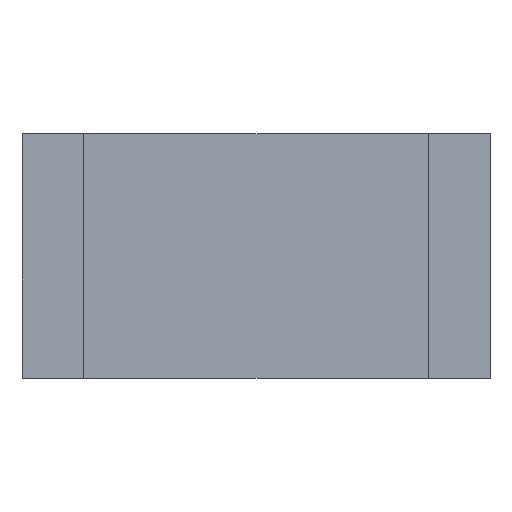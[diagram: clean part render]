
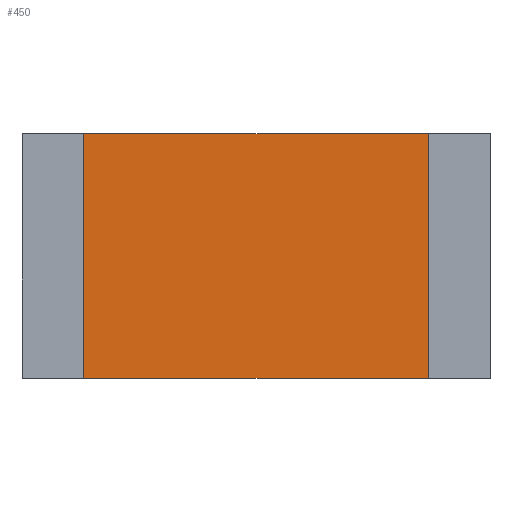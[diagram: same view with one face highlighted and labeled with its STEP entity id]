
A CAD part, top view. The second image highlights one B-rep face of the part: STEP entity #450.
In plain terms, the highlighted planar face has unit normal (0, 0, 1).
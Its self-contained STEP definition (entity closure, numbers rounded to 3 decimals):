
#32=FACE_OUTER_BOUND('',#58,.T.);
#58=EDGE_LOOP('',(#351,#352,#353,#354));
#95=LINE('',#679,#155);
#99=LINE('',#687,#159);
#104=LINE('',#697,#164);
#105=LINE('',#698,#165);
#155=VECTOR('',#559,10.);
#159=VECTOR('',#565,10.);
#164=VECTOR('',#574,10.);
#165=VECTOR('',#575,10.);
#207=VERTEX_POINT('',#677);
#208=VERTEX_POINT('',#678);
#211=VERTEX_POINT('',#686);
#214=VERTEX_POINT('',#696);
#255=EDGE_CURVE('',#207,#208,#95,.T.);
#259=EDGE_CURVE('',#211,#208,#99,.T.);
#264=EDGE_CURVE('',#214,#207,#104,.T.);
#265=EDGE_CURVE('',#214,#211,#105,.T.);
#351=ORIENTED_EDGE('',*,*,#264,.F.);
#352=ORIENTED_EDGE('',*,*,#265,.T.);
#353=ORIENTED_EDGE('',*,*,#259,.T.);
#354=ORIENTED_EDGE('',*,*,#255,.F.);
#424=PLANE('',#498);
#450=ADVANCED_FACE('',(#32),#424,.T.);
#498=AXIS2_PLACEMENT_3D('',#695,#572,#573);
#559=DIRECTION('',(1.,0.,0.));
#565=DIRECTION('',(0.,1.,0.));
#572=DIRECTION('center_axis',(0.,0.,1.));
#573=DIRECTION('ref_axis',(1.,0.,0.));
#574=DIRECTION('',(0.,1.,0.));
#575=DIRECTION('',(1.,0.,0.));
#677=CARTESIAN_POINT('',(0.,1.6,0.49));
#678=CARTESIAN_POINT('',(3.05,1.6,0.49));
#679=CARTESIAN_POINT('',(0.,1.6,0.49));
#686=CARTESIAN_POINT('',(3.05,0.,0.49));
#687=CARTESIAN_POINT('',(3.05,0.,0.49));
#695=CARTESIAN_POINT('Origin',(1.525,-0.001,0.49));
#696=CARTESIAN_POINT('',(0.,0.,0.49));
#697=CARTESIAN_POINT('',(0.,0.,0.49));
#698=CARTESIAN_POINT('',(0.,0.,0.49));
